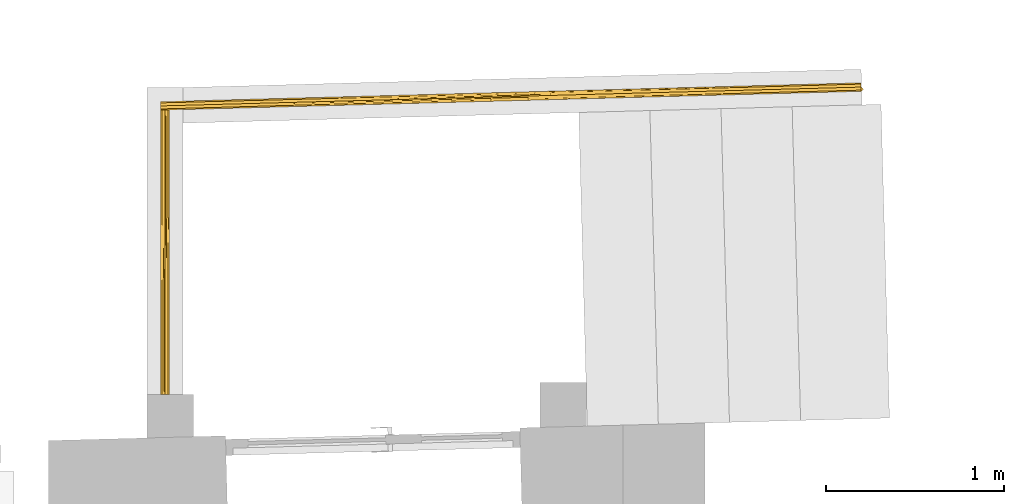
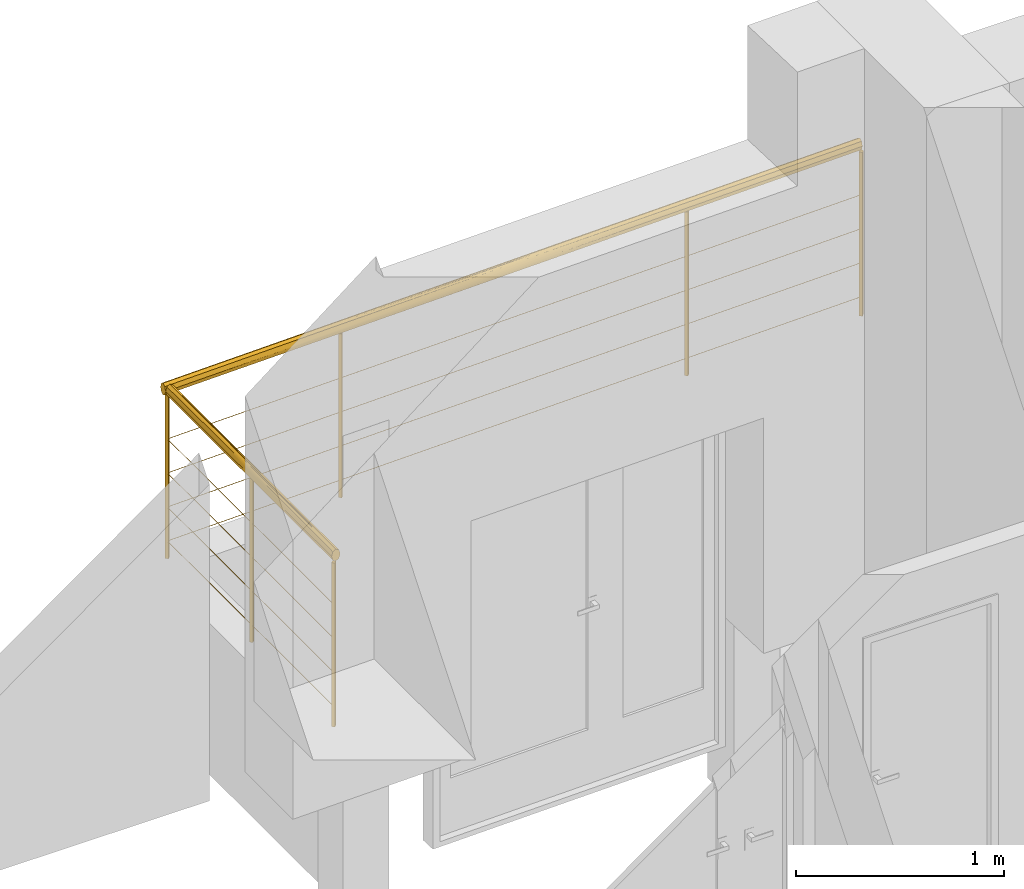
# One storey, part 45 of 49: 1 railing.
"""IFC2X3 building model written with IfcOpenShell, lengths in millimetres."""

import ifcopenshell
import ifcopenshell.guid

model = None  # the IFC model being written
_history = None  # IfcOwnerHistory: only IFC2X3 demands one
_inside = {}  # id of a spatial element -> (the spatial element, [elements in it])
_under = {}  # id of a project, library or spatial element -> (it, [spatial elements below it])
_declared = {}  # id of a project -> (the project, [libraries it declares])
_typed = {}  # id of a type object -> (the type object, [elements of that type])
_made_of = {}  # id of a material, layer set ... -> (it, [elements and type objects made of it])


def new_model(schema):
    """Start an empty IFC model of exactly this schema.

    Asked for "IFC4X3", IfcOpenShell would pick the latest addendum, in which some entities
    have other attributes; the version numbers below select the first issue.
    IFC2X3 requires an IfcOwnerHistory on every rooted entity: one is made here for all.
    """
    global model, _history
    if schema == "IFC4X3":
        model = ifcopenshell.file(schema_version=(4, 3, 0, 0))
    else:
        model = ifcopenshell.file(schema=schema)
    _inside.clear()
    _under.clear()
    _declared.clear()
    _typed.clear()
    _made_of.clear()
    _history = None
    if model.schema == "IFC2X3":
        org = make("IfcOrganization", Name="unknown")
        user = make(
            "IfcPersonAndOrganization",
            ThePerson=make("IfcPerson", FamilyName="unknown"),
            TheOrganization=org,
        )
        app = make(
            "IfcApplication",
            ApplicationDeveloper=org,
            Version="unknown",
            ApplicationFullName="unknown",
            ApplicationIdentifier="unknown",
        )
        _history = make(
            "IfcOwnerHistory",
            OwningUser=user,
            OwningApplication=app,
            ChangeAction="ADDED",
            CreationDate=0,
        )
    return model


def make(cls, **values):
    """One entity of the class cls with the attributes given. An attribute that is None is left unset."""
    return model.create_entity(
        cls, **{name: value for name, value in values.items() if value is not None}
    )


def entity(cls, *values):
    """Any entity or typed value of the class cls, its attributes in the order of the schema. None: left unset."""
    e = model.create_entity(cls)
    for i, value in enumerate(values):
        if value is not None:
            e[i] = value
    return e


def rooted(cls, **values):
    """An entity with a GlobalId (a new one), such as an element, a storey or a relation."""
    return make(cls, GlobalId=ifcopenshell.guid.new(), OwnerHistory=_history, **values)


def si_unit(unit_type, name, prefix=None):
    """IfcSIUnit, for example si_unit("LENGTHUNIT", "METRE", prefix="MILLI")."""
    return make("IfcSIUnit", UnitType=unit_type, Prefix=prefix, Name=name)


def converted_unit(unit_type, name, factor, base, dimensions=None, offset=None):
    """IfcConversionBasedUnit, such as the inch: factor (a typed value) times the base unit."""
    return make(
        "IfcConversionBasedUnit"
        if offset is None
        else "IfcConversionBasedUnitWithOffset",
        ConversionOffset=offset,
        Dimensions=None
        if dimensions is None
        else entity("IfcDimensionalExponents", *dimensions),
        UnitType=unit_type,
        Name=name,
        ConversionFactor=make(
            "IfcMeasureWithUnit", ValueComponent=factor, UnitComponent=base
        ),
    )


def derived_unit(unit_type, elements):
    """IfcDerivedUnit: a product of units, each with its exponent."""
    return make(
        "IfcDerivedUnit",
        Elements=[
            make("IfcDerivedUnitElement", Unit=unit, Exponent=power)
            for unit, power in elements
        ],
        UnitType=unit_type,
    )


def assignment(units):
    """IfcUnitAssignment: the units of a project."""
    return None if units is None else make("IfcUnitAssignment", Units=units)


def point(xyz):
    """IfcCartesianPoint."""
    return None if xyz is None else make("IfcCartesianPoint", Coordinates=xyz)


def direction(xyz):
    """IfcDirection."""
    return None if xyz is None else make("IfcDirection", DirectionRatios=xyz)


def frame(location, z_axis=None, x_axis=None):
    """IfcAxis2Placement3D, a coordinate frame: its origin and axes. An axis left out is left unset."""
    return make(
        "IfcAxis2Placement3D",
        Location=point(location),
        Axis=direction(z_axis),
        RefDirection=direction(x_axis),
    )


def origin():
    """The frame at (0, 0, 0) with its axes left unset."""
    return frame((0.0, 0.0, 0.0))


def place(relative_to, where):
    """IfcLocalPlacement: puts the frame where relative to a parent placement (None: the world)."""
    return make(
        "IfcLocalPlacement", PlacementRelTo=relative_to, RelativePlacement=where
    )


def context(
    kind, dimensions, precision=None, world=None, true_north=None, identifier=None
):
    """IfcGeometricRepresentationContext, for example the 3D "Model" context."""
    return make(
        "IfcGeometricRepresentationContext",
        ContextIdentifier=identifier,
        ContextType=kind,
        CoordinateSpaceDimension=dimensions,
        Precision=precision,
        WorldCoordinateSystem=world,
        TrueNorth=true_north,
    )


def subcontext(parent, identifier, kind, view, scale=None):
    """IfcGeometricRepresentationSubContext, for example "Body" below "Model"."""
    return make(
        "IfcGeometricRepresentationSubContext",
        ContextIdentifier=identifier,
        ContextType=kind,
        ParentContext=parent,
        TargetScale=scale,
        TargetView=view,
    )


def project(units=None, contexts=None):
    """IfcProject with its units and contexts."""
    return rooted(
        "IfcProject",
        Name="project",
        RepresentationContexts=contexts,
        UnitsInContext=assignment(units),
    )


def spatial(cls, under=None, at=None, **own):
    """A site, building, storey or space (cls), placed at a placement, below another one or the project."""
    s = rooted(cls, ObjectPlacement=at, **own)
    if under is not None:
        _under.setdefault(under.id(), (under, []))[1].append(s)
    return s


def faces_of(points, faces, orient=None, outer=None):
    """IfcFace entities. A face is a list of loops; a loop is a list of indices into points, from 0.

    orient and outer hold one flag for each loop. By default every Orientation is true, the
    first loop of a face is its IfcFaceOuterBound and the others are IfcFaceBound.
    """
    made = []
    for i, loops in enumerate(faces):
        bounds = []
        for j, loop in enumerate(loops):
            is_outer = j == 0 if outer is None else outer[i][j]
            bounds.append(
                make(
                    "IfcFaceOuterBound" if is_outer else "IfcFaceBound",
                    Bound=make("IfcPolyLoop", Polygon=[points[k] for k in loop]),
                    Orientation=True if orient is None else orient[i][j],
                )
            )
        made.append(make("IfcFace", Bounds=bounds))
    return made


def faceted_brep(points, faces, orient=None, outer=None, voids=None):
    """IfcFacetedBrep: a solid bounded by flat faces; with voids (closed shells), ...WithVoids."""
    shared = [point(p) for p in points]
    hull = make("IfcClosedShell", CfsFaces=faces_of(shared, faces, orient, outer))
    if voids is None:
        return make("IfcFacetedBrep", Outer=hull)
    return make(
        "IfcFacetedBrepWithVoids",
        Outer=hull,
        Voids=[
            make(cls, CfsFaces=faces_of(shared, fs, o, b)) for cls, fs, o, b in voids
        ],
    )


def shape(context_of_items, identifier, shape_type, items):
    """IfcShapeRepresentation: the items that make up one representation, for example the "Body"."""
    return make(
        "IfcShapeRepresentation",
        ContextOfItems=context_of_items,
        RepresentationIdentifier=identifier,
        RepresentationType=shape_type,
        Items=items,
    )


def material(Name=None, Category=None):
    """IfcMaterial."""
    return make("IfcMaterial", Name=Name, Category=Category)


def made_of(thing, what):
    """Note that an element or type object is made of a material, layer set ...; save() writes the relation."""
    if what is not None:
        _made_of.setdefault(what.id(), (what, []))[1].append(thing)
    return thing


def element(
    cls,
    number,
    at=None,
    inside=None,
    cuts=None,
    type_object=None,
    material=None,
    context=None,
    identifier="Body",
    shape_type=None,
    held_by="IfcProductDefinitionShape",
    body=None,
    shapes=None,
    **own,
):
    """One element of the class cls, such as IfcWall. Its Tag is "e" and its number.

    at: its placement. inside: the storey or other place that contains it. cuts: it is an
    opening in that element (IfcRelVoidsElement). A single representation is given by context,
    identifier, shape_type and body (its items); several are given by shapes. held_by: the class
    of the entity that holds the representations. save() writes the other relations.
    """
    e = rooted(cls, Tag="e%d" % number, ObjectPlacement=at, **own)
    if body is not None:
        shapes = [shape(context, identifier, shape_type, body)]
    if shapes is not None:
        e.Representation = make(held_by, Representations=shapes)
    if inside is not None:
        _inside.setdefault(inside.id(), (inside, []))[1].append(e)
    if cuts is not None:
        rooted(
            "IfcRelVoidsElement", RelatingBuildingElement=cuts, RelatedOpeningElement=e
        )
    if type_object is not None:
        _typed.setdefault(type_object.id(), (type_object, []))[1].append(e)
    return made_of(e, material)


def aggregate(whole, parts):
    """IfcRelAggregates: a whole, such as a stair, and the parts it consists of."""
    return rooted("IfcRelAggregates", RelatingObject=whole, RelatedObjects=parts)


def save(model, path):
    """Write the relations noted so far, then the file.

    IfcRelAggregates (storeys below a building ...), IfcRelContainedInSpatialStructure (elements
    in a storey), IfcRelDefinesByType, IfcRelAssociatesMaterial and IfcRelDeclares: one each for
    every whole, place, type object, material and project.
    """
    for whole, parts in _under.values():
        aggregate(whole, parts)
    for where, things in _inside.values():
        rooted(
            "IfcRelContainedInSpatialStructure",
            RelatedElements=things,
            RelatingStructure=where,
        )
    for kind, things in _typed.values():
        rooted("IfcRelDefinesByType", RelatedObjects=things, RelatingType=kind)
    for what, things in _made_of.values():
        rooted("IfcRelAssociatesMaterial", RelatedObjects=things, RelatingMaterial=what)
    for by, libraries in _declared.values():
        rooted("IfcRelDeclares", RelatingContext=by, RelatedDefinitions=libraries)
    model.write(path)


model = new_model("IFC2X3")

# Units and contexts
model_context = context("Model", 3, precision=0.01, world=origin(), true_north=direction((6.12303176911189e-17, 1.0)))
body_context = subcontext(model_context, "Body", "Model", "MODEL_VIEW")
ifc_project = project(units=[si_unit("LENGTHUNIT", "METRE", prefix="MILLI"), si_unit("AREAUNIT", "SQUARE_METRE"), si_unit("VOLUMEUNIT", "CUBIC_METRE"), converted_unit("PLANEANGLEUNIT", "DEGREE", entity("IfcRatioMeasure", 0.0174532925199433), si_unit("PLANEANGLEUNIT", "RADIAN"), dimensions=[0, 0, 0, 0, 0, 0, 0]), si_unit("MASSUNIT", "GRAM", prefix="KILO"), derived_unit("MASSDENSITYUNIT", [(si_unit("MASSUNIT", "GRAM", prefix="KILO"), 1), (si_unit("LENGTHUNIT", "METRE"), -3)]), si_unit("TIMEUNIT", "SECOND"), si_unit("FREQUENCYUNIT", "HERTZ"), si_unit("THERMODYNAMICTEMPERATUREUNIT", "DEGREE_CELSIUS"), derived_unit("THERMALTRANSMITTANCEUNIT", [(si_unit("MASSUNIT", "GRAM", prefix="KILO"), 1), (si_unit("THERMODYNAMICTEMPERATUREUNIT", "KELVIN"), -1), (si_unit("TIMEUNIT", "SECOND"), -3)]), derived_unit("VOLUMETRICFLOWRATEUNIT", [(si_unit("LENGTHUNIT", "METRE"), 3), (si_unit("TIMEUNIT", "SECOND"), -1)]), si_unit("ELECTRICCURRENTUNIT", "AMPERE"), si_unit("ELECTRICVOLTAGEUNIT", "VOLT"), si_unit("POWERUNIT", "WATT"), si_unit("FORCEUNIT", "NEWTON", prefix="KILO"), si_unit("ILLUMINANCEUNIT", "LUX"), si_unit("LUMINOUSFLUXUNIT", "LUMEN"), si_unit("LUMINOUSINTENSITYUNIT", "CANDELA"), derived_unit("USERDEFINED", [(si_unit("MASSUNIT", "GRAM", prefix="KILO"), -1), (si_unit("LENGTHUNIT", "METRE"), -2), (si_unit("TIMEUNIT", "SECOND"), 3), (si_unit("LUMINOUSFLUXUNIT", "LUMEN"), 1)]), derived_unit("LINEARVELOCITYUNIT", [(si_unit("LENGTHUNIT", "METRE"), 1), (si_unit("TIMEUNIT", "SECOND"), -1)]), si_unit("PRESSUREUNIT", "PASCAL"), derived_unit("USERDEFINED", [(si_unit("LENGTHUNIT", "METRE"), -2), (si_unit("MASSUNIT", "GRAM", prefix="KILO"), 1), (si_unit("TIMEUNIT", "SECOND"), -2)])], contexts=[model_context])

# Site, building, storey
site_placement = place(None, frame((-151.875543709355, 2715.0, 0.0)))
site = spatial("IfcSite", under=ifc_project, at=site_placement, Name="Surface", CompositionType="ELEMENT")
building_placement = place(site_placement, origin())
building = spatial("IfcBuilding", under=site, at=building_placement, CompositionType="ELEMENT")
storey_placement = place(building_placement, origin())
storey = spatial("IfcBuildingStorey", under=building, at=storey_placement, Name="1 korrus", CompositionType="ELEMENT", Elevation=3.0969999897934e-10)

# Railing
ifc_material = material(Name="__Tumehall")
railing_placement = place(storey_placement, frame((1937.96206111, 13366.5079246, -110.0)))
element("IfcRailing", 1, at=railing_placement, inside=storey, material=ifc_material, Name="Railing:1000mm trossidega piire", ObjectType="Railing:1000mm trossidega piire", PredefinedType="NOTDEFINED", context=body_context, shape_type="Brep", body=[
    faceted_brep([(2961.85426365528, 1704.59310470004, 0.0), (2974.01389539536, 1717.424447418, 0.0), (2974.01389539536, 1717.424447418, 964.466919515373), (2961.85426365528, 1704.59310470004, 964.466919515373), (2961.1825526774, 1729.58407915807, 0.0), (2961.1825526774, 1729.58407915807, 964.466919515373), (2949.02292093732, 1716.75273644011, 0.0), (2949.02292093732, 1716.75273644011, 964.466919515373)], [[[0, 1, 2, 3]], [[2, 1, 4, 5]], [[4, 6, 7, 5]], [[7, 6, 0, 3]], [[3, 2, 5, 7]], [[0, 6, 4, 1]]]),
    faceted_brep([(1005.23365821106, 1652.00277684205, 0.0), (1017.39328995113, 1664.83411956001, 0.0), (1017.39328995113, 1664.83411956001, 964.466919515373), (1005.23365821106, 1652.00277684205, 964.466919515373), (1004.56194723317, 1676.99375130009, 0.0), (1004.56194723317, 1676.99375130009, 964.466919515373), (992.402315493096, 1664.16240858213, 0.0), (992.402315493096, 1664.16240858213, 964.466919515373)], [[[0, 1, 2, 3]], [[2, 1, 4, 5]], [[4, 6, 7, 5]], [[7, 6, 0, 3]], [[3, 2, 5, 7]], [[0, 6, 4, 1]]]),
    faceted_brep([(39.0875000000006, 826.14530007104, 0.0), (26.587500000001, 838.64530007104, 0.0), (26.587500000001, 838.64530007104, 964.466919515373), (39.0875000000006, 826.14530007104, 964.466919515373), (14.0875000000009, 826.14530007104, 0.0), (14.0875000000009, 826.14530007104, 964.466919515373), (26.5875000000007, 813.645300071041, 0.0), (26.5875000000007, 813.645300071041, 964.466919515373)], [[[0, 1, 2, 3]], [[2, 1, 4, 5]], [[4, 6, 7, 5]], [[7, 6, 0, 3]], [[3, 2, 5, 7]], [[0, 6, 4, 1]]]),
    faceted_brep([(39.0875000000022, 1638.20310014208, 0.0), (26.5875000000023, 1650.70310014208, 0.0), (26.5875000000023, 1650.70310014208, 964.466919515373), (39.0875000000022, 1638.20310014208, 964.466919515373), (14.0875000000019, 1638.20310014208, 0.0), (14.0875000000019, 1638.20310014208, 964.466919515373), (26.5875000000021, 1625.70310014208, 0.0), (26.5875000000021, 1625.70310014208, 964.466919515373)], [[[0, 1, 2, 3]], [[2, 1, 4, 5]], [[4, 6, 7, 5]], [[7, 6, 0, 3]], [[3, 2, 5, 7]], [[0, 6, 4, 1]]]),
    faceted_brep([(3940.50042186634, 1718.39278140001, 0.0), (3952.66005360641, 1731.22412411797, 0.0), (3952.66005360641, 1731.22412411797, 964.466919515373), (3940.50042186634, 1718.39278140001, 964.466919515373), (3939.82871088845, 1743.38375585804, 0.0), (3939.82871088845, 1743.38375585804, 964.466919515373), (3927.66907914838, 1730.55241314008, 0.0), (3927.66907914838, 1730.55241314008, 964.466919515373)], [[[0, 1, 2, 3]], [[2, 1, 4, 5]], [[4, 6, 7, 5]], [[7, 6, 0, 3]], [[3, 2, 5, 7]], [[0, 6, 4, 1]]]),
    faceted_brep([(26.5874999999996, 14.0875, 0.0), (14.0875, 26.5874999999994, 0.0), (14.0875, 26.5874999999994, 964.466919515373), (26.5874999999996, 14.0875, 964.466919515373), (1.58749999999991, 14.0875, 0.0), (1.58749999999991, 14.0875, 964.466919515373), (14.0874999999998, 1.58750000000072, 0.0), (14.0874999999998, 1.58750000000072, 964.466919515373)], [[[0, 1, 2, 3]], [[2, 1, 4, 5]], [[4, 6, 7, 5]], [[7, 6, 0, 3]], [[3, 2, 5, 7]], [[0, 6, 4, 1]]]),
    faceted_brep([(43.5580627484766, 14.0875, 975.251262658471), (45.3154220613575, 14.0875, 981.438446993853), (47.0727813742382, 14.0875, 987.625631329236), (48.8301406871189, 14.0875, 993.812815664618), (50.5874999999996, 14.0875, 1000.0), (48.8301406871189, 14.0875, 1006.18718433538), (47.0727813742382, 14.0875, 1012.37436867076), (45.3154220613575, 14.0875, 1018.56155300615), (43.5580627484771, 14.0875, 1024.74873734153), (39.3154220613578, 14.0875, 1027.31155300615), (35.0727813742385, 14.0875, 1029.87436867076), (32.3402156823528, 14.0875, 1031.52500625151), (26.5874999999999, 14.0875, 1035.0), (22.3448593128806, 14.0875, 1032.43718433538), (18.1022186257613, 14.0875, 1029.87436867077), (13.859577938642, 14.0875, 1027.31155300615), (9.61693725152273, 14.0875, 1024.74873734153), (7.85957793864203, 14.0875, 1018.56155300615), (6.10221862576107, 14.0875, 1012.37436867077), (4.97083317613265, 14.0875, 1008.39106811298), (2.58749999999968, 14.0875, 1000.0), (4.97035269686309, 14.0875, 991.610623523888), (7.35320539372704, 14.0875, 983.221247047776), (9.61693725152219, 14.0875, 975.251262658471), (13.8595779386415, 14.0875, 972.688446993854), (18.1022186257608, 14.0875, 970.125631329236), (22.3448593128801, 14.0875, 967.562815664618), (26.5874999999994, 14.0875, 965.0), (32.3390564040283, 14.0875, 968.47429347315), (38.0906128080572, 14.0875, 971.948586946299), (50.587500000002, 1614.6709805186, 1000.0), (48.2051273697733, 1614.60694676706, 991.612313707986), (47.0727813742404, 1614.5765114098, 987.625631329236), (45.3154220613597, 1614.5292768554, 981.438446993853), (43.558062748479, 1614.482042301, 975.251262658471), (39.3154220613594, 1614.36800799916, 972.688446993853), (35.0727813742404, 1614.25397369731, 970.125631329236), (30.8301406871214, 1614.13993939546, 967.562815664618), (26.5875000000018, 1614.02590509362, 965.0), (20.8347848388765, 1613.87128279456, 968.474993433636), (18.1022186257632, 1613.79783648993, 970.125631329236), (13.8595779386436, 1613.68380218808, 972.688446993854), (9.61693725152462, 1613.56976788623, 975.251262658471), (7.85957793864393, 1613.52253333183, 981.438446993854), (6.10221862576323, 1613.47529877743, 987.625631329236), (4.34485931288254, 1613.42806422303, 993.812815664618), (2.58750000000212, 1613.38082966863, 1000.0), (4.34485931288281, 1613.42806422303, 1006.18718433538), (6.10221862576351, 1613.47529877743, 1012.37436867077), (7.85957793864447, 1613.52253333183, 1018.56155300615), (9.61693725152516, 1613.56976788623, 1024.74873734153), (13.8595779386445, 1613.68380218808, 1027.31155300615), (18.1022186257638, 1613.79783648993, 1029.87436867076), (20.8336247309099, 1613.87125161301, 1031.52430578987), (26.5875000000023, 1614.02590509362, 1035.0), (30.8301406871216, 1614.13993939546, 1032.43718433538), (35.0727813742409, 1614.25397369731, 1029.87436867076), (39.3154220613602, 1614.36800799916, 1027.31155300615), (43.5580627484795, 1614.482042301, 1024.74873734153), (45.3154220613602, 1614.5292768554, 1018.56155300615), (47.0727813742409, 1614.5765114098, 1012.37436867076), (48.2046471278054, 1614.60693385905, 1008.38937709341), (26.5875000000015, 1112.56838369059, 1035.0), (18.8225700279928, 813.942675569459, 1033.11752225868), (11.3620611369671, 813.828635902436, 1027.05536581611), (14.9058727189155, 942.673875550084, 1030.57424906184), (26.5875000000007, 515.323710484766, 1035.0), (2.58750000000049, 514.899917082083, 1000.0), (3.87855383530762, 813.781398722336, 1011.32476016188), (5.90043787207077, 813.80501605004, 1017.74411527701), (8.3496592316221, 948.687287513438, 1022.75098921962), (2.58750000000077, 515.121415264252, 1000.0), (4.92925744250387, 788.264896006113, 984.92048572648), (7.51096409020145, 832.417858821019, 978.762050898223), (18.8231797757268, 813.942667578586, 966.882173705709), (14.9064403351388, 942.721219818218, 969.425289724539), (11.362567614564, 813.828633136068, 972.944028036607), (26.5875000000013, 1112.34680569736, 965.0), (26.5875000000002, 515.545021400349, 965.0), (3.3214092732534, 826.135102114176, 991.410797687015), (36.9262256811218, 788.64157625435, 968.414009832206), (41.1492727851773, 832.93837209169, 972.178501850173), (49.2969506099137, 814.332005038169, 988.677391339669), (47.5530019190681, 943.226962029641, 982.965085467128), (45.1399229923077, 814.284770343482, 977.796540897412), (32.4756078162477, 826.453839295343, 966.069682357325), (50.5875000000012, 1112.56779906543, 1000.0), (50.5875000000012, 1112.78980833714, 1000.0), (49.2967422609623, 814.332013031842, 1011.32349734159), (45.1397508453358, 814.284773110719, 1022.20376500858), (47.552779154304, 943.223765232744, 1017.03549759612), (34.3524404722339, 814.170736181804, 1033.11751702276), (38.7548364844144, 814.227753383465, 1030.16868103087), (42.1881395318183, 949.304493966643, 1026.59689950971)], [[[0, 1, 2, 3, 4, 5, 6, 7, 8, 9, 10, 11, 12, 13, 14, 15, 16, 17, 18, 19, 20, 21, 22, 23, 24, 25, 26, 27, 28, 29]], [[30, 31, 32, 33, 34, 35, 36, 37, 38, 39, 40, 41, 42, 43, 44, 45, 46, 47, 48, 49, 50, 51, 52, 53, 54, 55, 56, 57, 58, 59, 60, 61]], [[13, 62, 63]], [[64, 65, 51]], [[13, 12, 66, 62]], [[62, 54, 53]], [[65, 15, 14]], [[47, 67, 68]], [[69, 49, 48]], [[64, 15, 65]], [[70, 64, 50]], [[63, 53, 52]], [[18, 68, 19]], [[70, 69, 17]], [[47, 46, 71, 67]], [[19, 67, 20]], [[18, 17, 69]], [[70, 17, 16]], [[16, 15, 64]], [[52, 65, 63]], [[18, 69, 68]], [[50, 64, 51]], [[63, 62, 53]], [[63, 14, 13]], [[68, 67, 19]], [[68, 48, 47]], [[51, 65, 52]], [[14, 63, 65]], [[68, 69, 48]], [[70, 50, 49]], [[64, 70, 16]], [[69, 70, 49]], [[72, 43, 73]], [[74, 25, 75]], [[75, 76, 41]], [[73, 76, 23]], [[76, 73, 42]], [[40, 75, 41]], [[42, 41, 76]], [[23, 22, 73]], [[26, 77, 78, 27]], [[77, 39, 38]], [[71, 79, 21]], [[75, 25, 24]], [[44, 43, 72]], [[44, 79, 46, 45]], [[24, 23, 76]], [[21, 20, 67, 71]], [[72, 73, 22]], [[72, 22, 21]], [[72, 21, 79]], [[79, 71, 46]], [[43, 42, 73]], [[76, 75, 24]], [[39, 74, 40]], [[74, 26, 25]], [[74, 39, 77]], [[74, 77, 26]], [[74, 75, 40]], [[72, 79, 44]], [[80, 35, 81]], [[82, 2, 83]], [[83, 84, 33]], [[81, 84, 0]], [[84, 81, 34]], [[32, 83, 33]], [[34, 33, 84]], [[78, 85, 28]], [[86, 4, 3]], [[31, 30, 87, 86]], [[0, 29, 81]], [[83, 2, 1]], [[36, 35, 80]], [[36, 85, 38, 37]], [[1, 0, 84]], [[28, 27, 78]], [[80, 81, 29]], [[80, 29, 28]], [[80, 28, 85]], [[85, 78, 77, 38]], [[35, 34, 81]], [[84, 83, 1]], [[31, 82, 32]], [[82, 3, 2]], [[82, 31, 86]], [[82, 86, 3]], [[82, 83, 32]], [[80, 85, 36]], [[5, 87, 88]], [[89, 90, 59]], [[5, 4, 86, 87]], [[87, 30, 61]], [[90, 7, 6]], [[55, 66, 91]], [[92, 57, 56]], [[89, 7, 90]], [[88, 61, 60]], [[93, 89, 58]], [[10, 91, 11]], [[93, 92, 9]], [[55, 54, 62, 66]], [[11, 66, 12]], [[10, 9, 92]], [[93, 9, 8]], [[8, 7, 89]], [[60, 90, 88]], [[10, 92, 91]], [[58, 89, 59]], [[88, 87, 61]], [[88, 6, 5]], [[91, 66, 11]], [[91, 56, 55]], [[59, 90, 60]], [[6, 88, 90]], [[91, 92, 56]], [[93, 58, 57]], [[89, 93, 8]], [[92, 93, 57]]]),
    faceted_brep([(26.5874999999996, 14.0875, 700.0), (24.5874999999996, 14.0875, 698.0), (26.5874999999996, 14.0875, 696.0), (28.5874999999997, 14.0875, 698.0), (24.587500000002, 1636.14862155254, 698.0), (26.5875000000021, 1636.20237783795, 700.0), (28.5875000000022, 1636.25613412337, 698.0), (26.5875000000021, 1636.20237783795, 696.0)], [[[0, 1, 2, 3]], [[4, 5, 6, 7]], [[1, 4, 7, 2]], [[7, 6, 3, 2]], [[3, 6, 5, 0]], [[4, 1, 0, 5]]]),
    faceted_brep([(26.5874999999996, 14.0875, 500.0), (24.5874999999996, 14.0875, 498.0), (26.5874999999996, 14.0875, 496.0), (28.5874999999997, 14.0875, 498.0), (24.587500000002, 1636.14862155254, 498.0), (26.5875000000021, 1636.20237783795, 500.0), (28.5875000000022, 1636.25613412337, 498.0), (26.5875000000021, 1636.20237783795, 496.0)], [[[0, 1, 2, 3]], [[4, 5, 6, 7]], [[1, 4, 7, 2]], [[7, 6, 3, 2]], [[3, 6, 5, 0]], [[4, 1, 0, 5]]]),
    faceted_brep([(26.5874999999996, 14.0875, 300.0), (24.5874999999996, 14.0875, 298.0), (26.5874999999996, 14.0875, 296.0), (28.5874999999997, 14.0875, 298.0), (24.587500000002, 1636.14862155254, 298.0), (26.5875000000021, 1636.20237783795, 300.0), (28.5875000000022, 1636.25613412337, 298.0), (26.5875000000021, 1636.20237783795, 296.0)], [[[0, 1, 2, 3]], [[4, 5, 6, 7]], [[1, 4, 7, 2]], [[7, 6, 3, 2]], [[3, 6, 5, 0]], [[4, 1, 0, 5]]]),
    faceted_brep([(26.5874999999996, 14.0875, 100.0), (24.5874999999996, 14.0875, 98.0), (26.5874999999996, 14.0875, 96.0), (28.5874999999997, 14.0875, 98.0), (24.587500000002, 1636.14862155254, 98.0), (26.5875000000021, 1636.20237783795, 100.0), (28.5875000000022, 1636.25613412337, 98.0), (26.5875000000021, 1636.20237783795, 96.0)], [[[0, 1, 2, 3]], [[4, 5, 6, 7]], [[1, 4, 7, 2]], [[7, 6, 3, 2]], [[3, 6, 5, 0]], [[4, 1, 0, 5]]]),
    faceted_brep([(2.41903344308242, 1654.53018835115, 975.251262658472), (2.41903344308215, 1649.71001386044, 972.340632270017), (2.41903344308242, 1644.88983936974, 969.430001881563), (2.41903344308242, 1637.55349664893, 965.0), (2.41903344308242, 1633.88562554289, 967.21481963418), (2.41903344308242, 1629.06515079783, 970.125631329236), (2.41903344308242, 1624.82097787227, 972.688446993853), (2.41903344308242, 1620.57680494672, 975.251262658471), (2.41903344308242, 1618.58009891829, 982.278583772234), (2.41903344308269, 1616.58339288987, 989.305904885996), (2.41903344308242, 1613.54482899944, 1000.0), (2.41903344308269, 1616.58364172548, 1010.69497088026), (2.41903344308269, 1618.5802233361, 1017.72185411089), (2.41903344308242, 1620.57680494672, 1024.74873734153), (2.41903344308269, 1624.82097787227, 1027.31155300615), (2.41903344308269, 1629.06515079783, 1029.87436867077), (2.41903344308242, 1633.30932372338, 1032.43718433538), (2.41903344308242, 1637.55349664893, 1035.0), (2.41903344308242, 1644.89044025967, 1030.56963527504), (2.41903344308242, 1649.71031430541, 1027.65918630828), (2.41903344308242, 1654.53018835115, 1024.74873734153), (2.41903344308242, 1656.28818233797, 1018.56155300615), (2.41903344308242, 1658.04617632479, 1012.37436867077), (2.41903344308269, 1659.80417031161, 1006.18718433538), (2.41903344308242, 1661.56216429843, 1000.0), (2.41903344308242, 1660.04275795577, 994.652514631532), (2.41903344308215, 1658.04617632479, 987.625631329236), (2.41903344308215, 1656.28818233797, 981.438446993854), (3940.28468342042, 1726.41931985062, 1024.74873734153), (3940.33190092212, 1724.66259498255, 1018.56155300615), (3940.37911842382, 1722.90587011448, 1012.37436867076), (3940.42633592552, 1721.1491452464, 1006.18718433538), (3940.47355342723, 1719.39242037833, 1000.0), (3940.42633592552, 1721.1491452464, 993.812815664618), (3940.37911842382, 1722.90587011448, 987.625631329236), (3940.33190092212, 1724.66259498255, 981.438446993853), (3940.28468342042, 1726.41931985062, 975.251262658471), (3940.17069028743, 1730.66042885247, 972.688446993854), (3940.05669715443, 1734.90153785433, 970.125631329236), (3939.92722528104, 1739.71853264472, 967.214819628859), (3939.82871088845, 1743.38375585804, 965.0), (3939.71471775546, 1747.6248648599, 967.562815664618), (3939.60072462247, 1751.86597386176, 970.125631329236), (3939.48673148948, 1756.10708286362, 972.688446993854), (3939.37273835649, 1760.34819186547, 975.251262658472), (3939.32552085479, 1762.10491673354, 981.438446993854), (3939.27830335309, 1763.86164160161, 987.625631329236), (3939.22467768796, 1765.85678188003, 994.652514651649), (3939.18386834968, 1767.37509133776, 1000.0), (3939.23108585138, 1765.61836646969, 1006.18718433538), (3939.27830335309, 1763.86164160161, 1012.37436867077), (3939.32552085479, 1762.10491673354, 1018.56155300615), (3939.37273835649, 1760.34819186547, 1024.74873734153), (3939.48673148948, 1756.10708286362, 1027.31155300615), (3939.60072462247, 1751.86597386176, 1029.87436867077), (3939.71471775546, 1747.6248648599, 1032.43718433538), (3939.82871088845, 1743.38375585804, 1035.0), (3939.94270402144, 1739.14264685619, 1032.43718433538), (3940.05669715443, 1734.90153785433, 1029.87436867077), (3940.17069028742, 1730.66042885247, 1027.31155300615), (1970.85338707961, 1709.02030718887, 1022.20376493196), (2055.40325791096, 1707.44316566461, 1027.66199968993), (2198.1108151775, 1717.74333923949, 1016.49896485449), (2070.78710475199, 1700.11673724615, 1033.49291172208), (1970.78199945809, 1713.43426782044, 1010.1601175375), (1970.80667452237, 1714.46876821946, 1000.0), (1971.1290971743, 1690.46876669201, 1035.0), (2216.89820579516, 1697.07458386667, 1035.0), (2282.59472450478, 1709.86453049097, 1031.09212959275), (2216.39445404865, 1721.06971160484, 1000.0), (1875.84825639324, 1693.67178889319, 966.023638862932), (2217.042829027, 1697.07847107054, 965.0), (1970.94277332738, 1705.69469616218, 972.944634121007), (1970.83579439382, 1709.67505399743, 979.014073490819), (1717.16078422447, 1705.1331503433, 984.395944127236), (1970.77957460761, 1713.52502069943, 990.287025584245), (1852.58377844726, 1697.74470712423, 968.497940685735), (1876.24943925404, 1664.61199931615, 991.597728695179), (2217.55248352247, 1673.0835019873, 1000.0), (1717.4609811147, 1672.94714440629, 968.670671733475), (1971.1888442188, 1683.80765231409, 966.374735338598), (1971.39435459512, 1671.91694524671, 977.796235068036), (1852.98859199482, 1665.68400170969, 984.748570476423), (1971.28252308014, 1676.07784310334, 971.988905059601), (1971.30496834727, 1675.24255627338, 1027.05536587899), (2055.93313702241, 1673.77288972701, 1021.44294284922), (2198.70152998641, 1685.26775250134, 1030.86714222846), (1971.19707228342, 1683.50099067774, 1033.49279910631), (2071.25729944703, 1670.18516434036, 1010.15996379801), (2283.21963200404, 1677.52910120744, 1016.0709006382)], [[[0, 1, 2, 3, 4, 5, 6, 7, 8, 9, 10, 11, 12, 13, 14, 15, 16, 17, 18, 19, 20, 21, 22, 23, 24, 25, 26, 27]], [[28, 29, 30, 31, 32, 33, 34, 35, 36, 37, 38, 39, 40, 41, 42, 43, 44, 45, 46, 47, 48, 49, 50, 51, 52, 53, 54, 55, 56, 57, 58, 59]], [[60, 61, 52]], [[62, 60, 51]], [[22, 21, 62]], [[18, 17, 63]], [[20, 19, 61]], [[50, 49, 64]], [[52, 51, 60]], [[63, 55, 54]], [[49, 65, 64]], [[20, 61, 60]], [[63, 17, 66, 67]], [[67, 56, 55]], [[22, 62, 64]], [[19, 68, 61]], [[55, 63, 67]], [[19, 18, 68]], [[68, 53, 61]], [[54, 68, 63]], [[21, 20, 60]], [[18, 63, 68]], [[23, 22, 64]], [[52, 61, 53]], [[68, 54, 53]], [[24, 23, 65]], [[49, 48, 69, 65]], [[62, 51, 50]], [[21, 60, 62]], [[64, 62, 50]], [[64, 65, 23]], [[25, 24, 65, 69]], [[69, 48, 47]], [[3, 70, 71]], [[72, 0, 73]], [[46, 74, 75]], [[72, 1, 0]], [[43, 72, 44]], [[26, 25, 75]], [[42, 70, 76]], [[26, 75, 74]], [[76, 72, 43]], [[72, 73, 44]], [[1, 76, 2]], [[76, 1, 72]], [[45, 44, 73]], [[73, 27, 74]], [[75, 69, 47]], [[69, 75, 25]], [[46, 75, 47]], [[2, 70, 3]], [[43, 42, 76]], [[70, 42, 41]], [[70, 2, 76]], [[41, 40, 71]], [[70, 41, 71]], [[26, 74, 27]], [[46, 45, 74]], [[73, 0, 27]], [[45, 73, 74]], [[4, 3, 71]], [[71, 40, 39]], [[10, 77, 78]], [[38, 79, 80]], [[81, 8, 7]], [[35, 81, 36]], [[34, 77, 82]], [[5, 80, 79]], [[5, 4, 80]], [[81, 7, 83]], [[82, 81, 35]], [[81, 83, 36]], [[8, 82, 9]], [[82, 8, 81]], [[37, 36, 83]], [[83, 6, 79]], [[80, 71, 39]], [[71, 80, 4]], [[38, 80, 39]], [[9, 77, 10]], [[35, 34, 82]], [[77, 34, 33]], [[77, 9, 82]], [[33, 32, 78]], [[77, 33, 78]], [[5, 79, 6]], [[38, 37, 79]], [[83, 7, 6]], [[37, 83, 79]], [[84, 85, 28]], [[86, 84, 59]], [[57, 66, 87]], [[11, 10, 88]], [[13, 12, 85]], [[58, 57, 87]], [[88, 31, 30]], [[13, 85, 84]], [[28, 59, 84]], [[15, 14, 86]], [[78, 88, 10]], [[78, 32, 31]], [[15, 86, 87]], [[12, 89, 85]], [[31, 88, 78]], [[12, 11, 89]], [[89, 29, 85]], [[30, 89, 88]], [[14, 13, 84]], [[11, 88, 89]], [[16, 15, 87]], [[28, 85, 29]], [[89, 30, 29]], [[17, 16, 66]], [[57, 56, 67, 66]], [[86, 59, 58]], [[14, 84, 86]], [[87, 86, 58]], [[87, 66, 16]]]),
    faceted_brep([(24.587500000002, 1638.14934385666, 700.0), (24.587500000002, 1640.15006616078, 698.0), (24.587500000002, 1638.14934385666, 696.0), (24.587500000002, 1636.14862155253, 698.0), (3939.77497401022, 1745.38303381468, 698.0), (3939.82871088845, 1743.38375585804, 700.0), (3939.88244776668, 1741.3844779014, 698.0), (3939.82871088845, 1743.38375585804, 696.0)], [[[0, 1, 2, 3]], [[4, 5, 6, 7]], [[2, 1, 4, 7]], [[6, 3, 2, 7]], [[6, 5, 0, 3]], [[5, 4, 1, 0]]]),
    faceted_brep([(24.587500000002, 1638.14934385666, 500.0), (24.587500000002, 1640.15006616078, 498.0), (24.587500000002, 1638.14934385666, 496.0), (24.587500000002, 1636.14862155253, 498.0), (3939.77497401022, 1745.38303381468, 498.0), (3939.82871088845, 1743.38375585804, 500.0), (3939.88244776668, 1741.3844779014, 498.0), (3939.82871088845, 1743.38375585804, 496.0)], [[[0, 1, 2, 3]], [[4, 5, 6, 7]], [[2, 1, 4, 7]], [[6, 3, 2, 7]], [[6, 5, 0, 3]], [[5, 4, 1, 0]]]),
    faceted_brep([(24.587500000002, 1638.14934385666, 300.0), (24.587500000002, 1640.15006616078, 298.0), (24.587500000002, 1638.14934385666, 296.0), (24.587500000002, 1636.14862155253, 298.0), (3939.77497401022, 1745.38303381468, 298.0), (3939.82871088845, 1743.38375585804, 300.0), (3939.88244776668, 1741.3844779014, 298.0), (3939.82871088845, 1743.38375585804, 296.0)], [[[0, 1, 2, 3]], [[4, 5, 6, 7]], [[2, 1, 4, 7]], [[6, 3, 2, 7]], [[6, 5, 0, 3]], [[5, 4, 1, 0]]]),
    faceted_brep([(24.587500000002, 1638.14934385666, 100.0), (24.587500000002, 1640.15006616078, 98.0), (24.587500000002, 1638.14934385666, 96.0), (24.587500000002, 1636.14862155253, 98.0), (3939.77497401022, 1745.38303381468, 98.0), (3939.82871088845, 1743.38375585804, 100.0), (3939.88244776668, 1741.3844779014, 98.0), (3939.82871088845, 1743.38375585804, 96.0)], [[[0, 1, 2, 3]], [[4, 5, 6, 7]], [[2, 1, 4, 7]], [[6, 3, 2, 7]], [[6, 5, 0, 3]], [[5, 4, 1, 0]]]),
])

save(model, "model.ifc")
